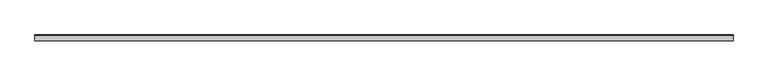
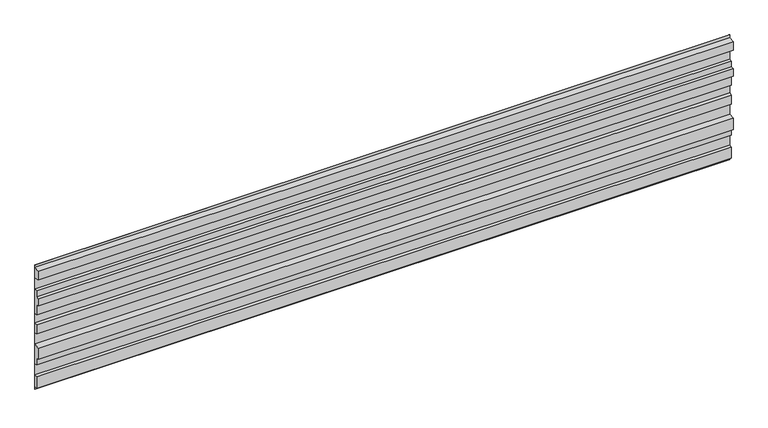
"""IFC4 building model written with IfcOpenShell, lengths in millimetres: plate geometry, ATELIERS 3S_NEW YORK BROOKLYN 950_HORIZONTAL : AZURO."""

from ifc_helpers import new_model, si_unit, frame, origin, place, context, project, spatial, polyline, outline, extrude, source, transform, mapped, element, save


def plate_ef704b0c(model_context):
    return source(origin(), model_context, "Body", "SweptSolid", [
        extrude(outline(polyline([(-20.75, 200.2649565), (-20.75, 250.2649565), (-40.75, 253.7914961), (-40.75, 339.4208208), (-0.75, 346.4739), (-0.75, 430.8445753), (-20.75, 434.3711149), (-20.75, 505.0004397), (-0.75, 508.5269793), (-0.75, 577.8976546), (-20.75, 581.4241942), (-20.75, 656.4241942), (-40.75, 659.9507338), (-40.75, 715.5800585), (-20.75, 719.1065981), (-20.75, 762.6065981), (-0.75, 766.1331377), (-0.75, 850.503813), (-40.75, 857.5568922), (-40.75, 923.186217), (-0.8, 930.2304798), (-0.8, 949.9246338), (0.0, 949.9246338), (0.0, 0.0), (-0.8, 0.0), (-0.8, 19.694154), (-20.75, 23.2118773), (-20.75, 108.841202), (-0.75, 112.3677416), (-0.75, 196.7384169), (-20.75, 200.2649565)])), frame((-2500.0, 0.0, 0.0), z_axis=(1.0, 0.0, 0.0), x_axis=(0.0, 1.0, 0.0)), (0.0, 0.0, 1.0), 5000.0),
    ])


if __name__ == "__main__":
    model = new_model("IFC4")
    model_context = context("Model", 3, world=origin())
    ifc_project = project(units=[si_unit("LENGTHUNIT", "METRE", prefix="MILLI")], contexts=[model_context])
    site = spatial("IfcSite", under=ifc_project)
    building = spatial("IfcBuilding", under=site)
    placement = place(None, origin())
    plate_shape = plate_ef704b0c(model_context)
    element("IfcPlate", 1, ObjectType="ATELIERS 3S_NEW YORK BROOKLYN 950_HORIZONTAL : AZURO", at=placement, inside=building, context=model_context, shape_type="MappedRepresentation", body=[
        mapped(plate_shape, transform((0.0, 0.0, 0.0), x_axis=(1.0, 0.0, 0.0), y_axis=(0.0, 1.0, 0.0), z_axis=(0.0, 0.0, 1.0))),
    ])
    save(model, "model.ifc")
